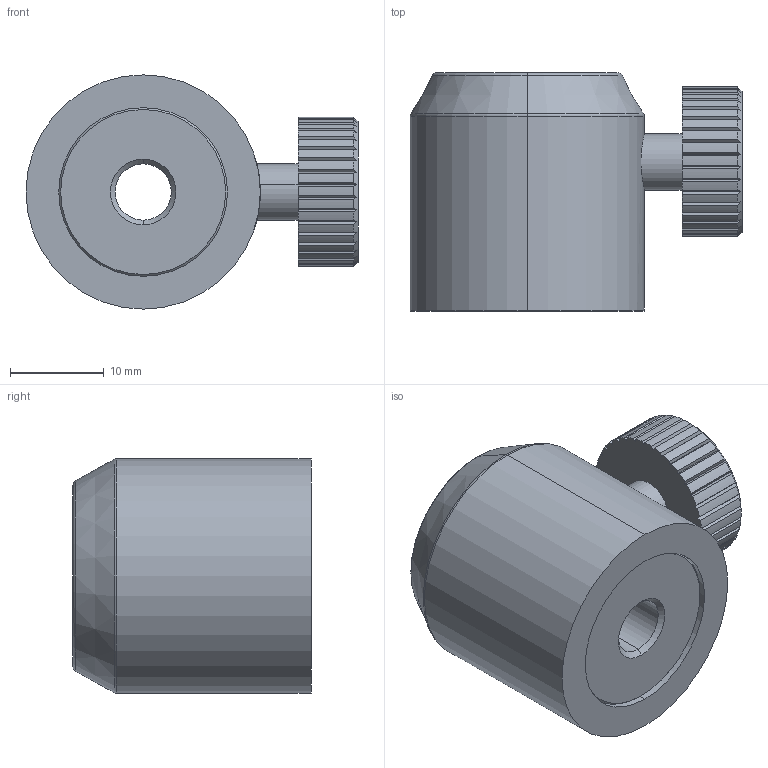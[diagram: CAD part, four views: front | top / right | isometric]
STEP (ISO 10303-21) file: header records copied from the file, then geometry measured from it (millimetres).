
FILE_DESCRIPTION (( 'STEP AP203' ), '1' );
FILE_NAME ('PH-1.STEP', '2016-11-29T08:57:25', ( '' ), ( '' ), 'SwSTEP 2.0', 'SolidWorks 2012', '' );
FILE_SCHEMA (( 'CONFIG_CONTROL_DESIGN' ));
Length unit declared in the file: millimetre
Products named in the file (1): PH-1
Bounding box: 35.42 x 25.4 x 25 mm (x, y, z)
Volume: 10822.5 mm3; surface area: 6034 mm2
Topology: 3 solids, 3 shells, 169 faces, 454 edges, 296 vertices
Faces by surface type: plane 94, cylinder 57, cone 14, torus 4
Entity records: 5561 total; most frequent: CARTESIAN_POINT 1266, ORIENTED_EDGE 908, DIRECTION 852, EDGE_CURVE 454, AXIS2_PLACEMENT_3D 304, VERTEX_POINT 296, VECTOR 244, LINE 244
